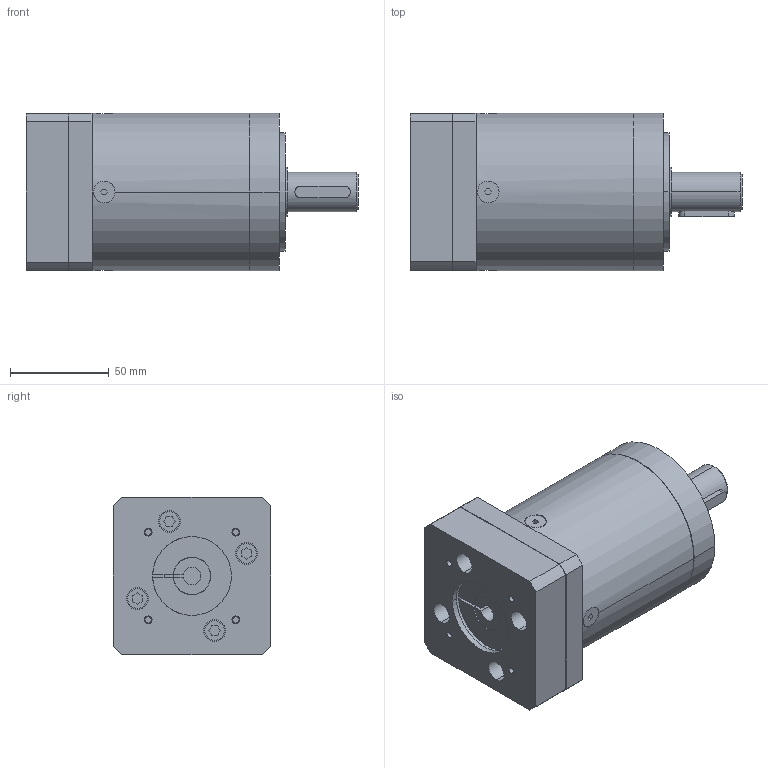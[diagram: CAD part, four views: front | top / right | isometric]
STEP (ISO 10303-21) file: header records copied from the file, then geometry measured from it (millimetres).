
FILE_DESCRIPTION((''),'2;1');
FILE_NAME('MB_PLE_MASTER','2020-09-09T',('agw'),(''),'CREO PARAMETRIC BY PTC INC, 2015290','CREO PARAMETRIC BY PTC INC, 2015290','');
FILE_SCHEMA(('AUTOMOTIVE_DESIGN { 1 0 10303 214 1 1 1 1 }'));
Length unit declared in the file: millimetre
Products named in the file (1): MB_PLE_MASTER
Bounding box: 168.5 x 80 x 80 mm (x, y, z)
Volume: 683877.7 mm3; surface area: 72792.3 mm2
Topology: 1 solids, 10 shells, 269 faces, 633 edges, 417 vertices
Faces by surface type: plane 137, cylinder 120, cone 6, torus 6
Entity records: 8847 total; most frequent: CARTESIAN_POINT 1512, DIRECTION 1415, ORIENTED_EDGE 1226, EDGE_CURVE 631, AXIS2_PLACEMENT_3D 525, VERTEX_POINT 417, VECTOR 365, LINE 365
